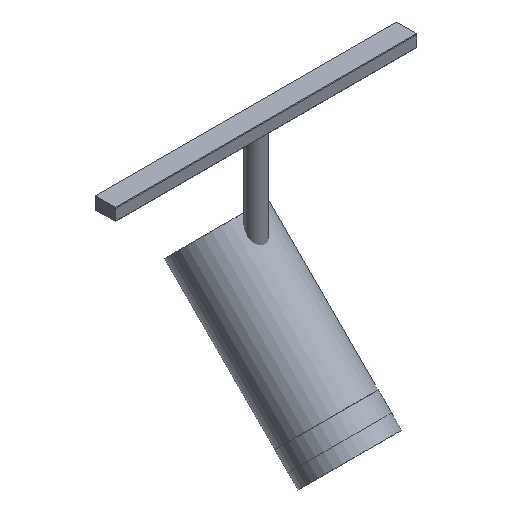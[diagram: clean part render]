
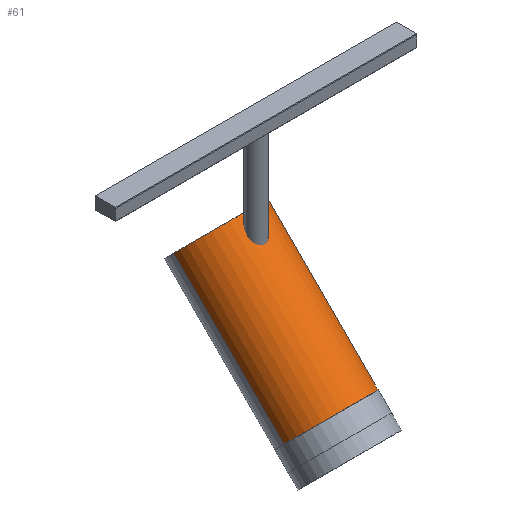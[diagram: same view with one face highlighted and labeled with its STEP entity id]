
A CAD part, isometric view. The second image highlights one B-rep face of the part: STEP entity #61.
In plain terms, the highlighted cylindrical face has radius 22.5 mm (diameter 45 mm), a partial arc.
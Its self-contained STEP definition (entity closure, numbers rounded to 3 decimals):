
#14=(
BOUNDED_CURVE()
B_SPLINE_CURVE(1,(#1559,#1560),.UNSPECIFIED.,.F.,.F.)
B_SPLINE_CURVE_WITH_KNOTS((2,2),(0.,83.),.UNSPECIFIED.)
CURVE()
GEOMETRIC_REPRESENTATION_ITEM()
RATIONAL_B_SPLINE_CURVE((1.,1.))
REPRESENTATION_ITEM('')
);
#15=(
BOUNDED_CURVE()
B_SPLINE_CURVE(1,(#1564,#1565),.UNSPECIFIED.,.F.,.F.)
B_SPLINE_CURVE_WITH_KNOTS((2,2),(0.,83.),.UNSPECIFIED.)
CURVE()
GEOMETRIC_REPRESENTATION_ITEM()
RATIONAL_B_SPLINE_CURVE((1.,1.))
REPRESENTATION_ITEM('')
);
#61=ADVANCED_FACE('',(#111),#778,.T.);
#111=FACE_OUTER_BOUND('',#165,.T.);
#165=EDGE_LOOP('',(#286,#287,#288,#289));
#286=ORIENTED_EDGE('',*,*,#456,.T.);
#287=ORIENTED_EDGE('',*,*,#453,.T.);
#288=ORIENTED_EDGE('',*,*,#457,.F.);
#289=ORIENTED_EDGE('',*,*,#455,.F.);
#453=EDGE_CURVE('',#705,#706,#14,.T.);
#455=EDGE_CURVE('',#707,#708,#15,.T.);
#456=EDGE_CURVE('',#707,#705,#602,.T.);
#457=EDGE_CURVE('',#708,#706,#603,.T.);
#602=TRIMMED_CURVE($,#656,(#1567),(#1568),.T.,.CARTESIAN.);
#603=TRIMMED_CURVE($,#657,(#1570),(#1571),.T.,.CARTESIAN.);
#656=CIRCLE('',#936,22.5);
#657=CIRCLE('',#937,22.5);
#705=VERTEX_POINT('',#1552);
#706=VERTEX_POINT('',#1553);
#707=VERTEX_POINT('',#1554);
#708=VERTEX_POINT('',#1555);
#778=CYLINDRICAL_SURFACE('',#933,22.5);
#933=AXIS2_PLACEMENT_3D('',#1551,#1063,$);
#936=AXIS2_PLACEMENT_3D($,#1566,#1068,#1069);
#937=AXIS2_PLACEMENT_3D($,#1569,#1070,#1071);
#1063=DIRECTION('',(0.,0.707,0.707));
#1068=DIRECTION('',(0.,0.707,0.707));
#1069=DIRECTION('',(-1.,0.,0.));
#1070=DIRECTION('',(0.,0.707,0.707));
#1071=DIRECTION('',(-1.,0.,0.));
#1551=CARTESIAN_POINT('',(0.,-8.132,-92.464));
#1552=CARTESIAN_POINT('',(22.5,-37.477,-121.809));
#1553=CARTESIAN_POINT('',(22.5,21.213,-63.119));
#1554=CARTESIAN_POINT('',(-22.5,-37.477,-121.809));
#1555=CARTESIAN_POINT('',(-22.5,21.213,-63.119));
#1559=CARTESIAN_POINT('',(22.5,-37.477,-121.809));
#1560=CARTESIAN_POINT('',(22.5,21.213,-63.119));
#1564=CARTESIAN_POINT('',(-22.5,-37.477,-121.809));
#1565=CARTESIAN_POINT('',(-22.5,21.213,-63.119));
#1566=CARTESIAN_POINT('',(0.,-37.477,-121.809));
#1567=CARTESIAN_POINT('',(-22.5,-37.477,-121.809));
#1568=CARTESIAN_POINT('',(22.5,-37.477,-121.809));
#1569=CARTESIAN_POINT('',(0.,21.213,-63.119));
#1570=CARTESIAN_POINT('',(-22.5,21.213,-63.119));
#1571=CARTESIAN_POINT('',(22.5,21.213,-63.119));
